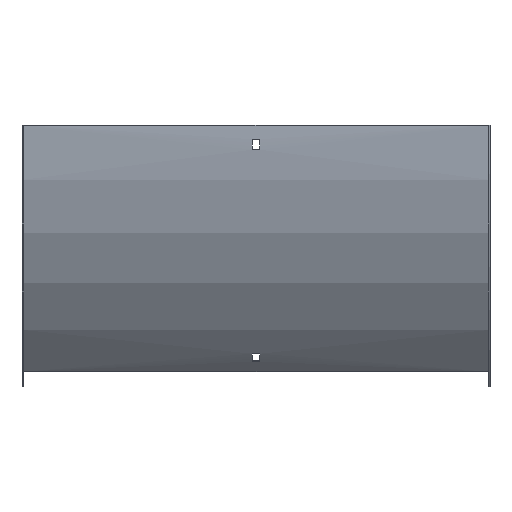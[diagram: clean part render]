
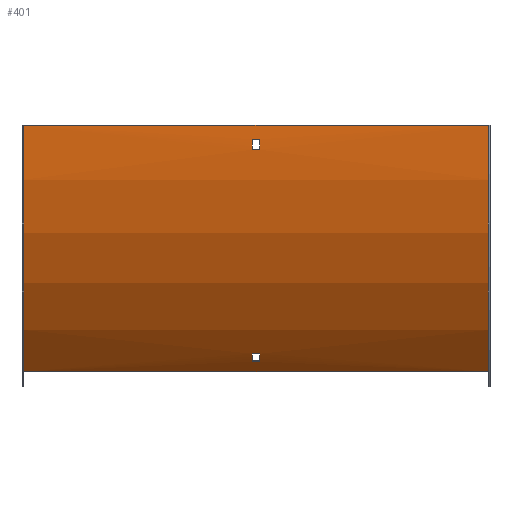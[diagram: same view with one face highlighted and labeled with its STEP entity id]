
A CAD part, front view. The second image highlights one B-rep face of the part: STEP entity #401.
In plain terms, the highlighted cylindrical face has radius 300 mm (diameter 600 mm), a partial arc.
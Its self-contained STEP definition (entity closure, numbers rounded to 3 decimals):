
#7 = AXIS2_PLACEMENT_3D ( 'NONE', #326, #452, #541 ) ;
#9 = ORIENTED_EDGE ( 'NONE', *, *, #300, .F. ) ;
#20 = ORIENTED_EDGE ( 'NONE', *, *, #59, .T. ) ;
#30 = DIRECTION ( 'NONE',  ( -1., 0., 0. ) ) ;
#33 = DIRECTION ( 'NONE',  ( -1., 0., 0. ) ) ;
#37 = AXIS2_PLACEMENT_3D ( 'NONE', #73, #492, #448 ) ;
#40 = CYLINDRICAL_SURFACE ( 'NONE', #575, 300. ) ;
#47 = CARTESIAN_POINT ( 'NONE',  ( -3.25, 72.039, -196.762 ) ) ;
#53 = VERTEX_POINT ( 'NONE', #439 ) ;
#54 = EDGE_CURVE ( 'NONE', #149, #510, #543, .T. ) ;
#59 = EDGE_CURVE ( 'NONE', #446, #149, #234, .T. ) ;
#73 = CARTESIAN_POINT ( 'NONE',  ( -3.25, 298.5, 0. ) ) ;
#77 = VECTOR ( 'NONE', #215, 1000. ) ;
#79 = ORIENTED_EDGE ( 'NONE', *, *, #306, .F. ) ;
#83 = CARTESIAN_POINT ( 'NONE',  ( 200., 86.368, -212.132 ) ) ;
#96 = VERTEX_POINT ( 'NONE', #538 ) ;
#98 = DIRECTION ( 'NONE',  ( 1., 0., 0. ) ) ;
#112 = CARTESIAN_POINT ( 'NONE',  ( 3.25, 298.5, 0. ) ) ;
#117 = VERTEX_POINT ( 'NONE', #47 ) ;
#119 = DIRECTION ( 'NONE',  ( -1., 0., 0. ) ) ;
#120 = CARTESIAN_POINT ( 'NONE',  ( -3.25, 78.052, -203.477 ) ) ;
#136 = DIRECTION ( 'NONE',  ( -1., 0., 0. ) ) ;
#143 = EDGE_CURVE ( 'NONE', #392, #263, #418, .T. ) ;
#145 = ORIENTED_EDGE ( 'NONE', *, *, #342, .F. ) ;
#147 = CARTESIAN_POINT ( 'NONE',  ( 3.25, 298.5, 0. ) ) ;
#149 = VERTEX_POINT ( 'NONE', #505 ) ;
#158 = CARTESIAN_POINT ( 'NONE',  ( -3.25, 298.5, 0. ) ) ;
#160 = DIRECTION ( 'NONE',  ( 1., 0., 0. ) ) ;
#174 = AXIS2_PLACEMENT_3D ( 'NONE', #147, #98, #558 ) ;
#175 = AXIS2_PLACEMENT_3D ( 'NONE', #112, #33, #494 ) ;
#176 = EDGE_CURVE ( 'NONE', #528, #377, #284, .T. ) ;
#187 = ORIENTED_EDGE ( 'NONE', *, *, #363, .T. ) ;
#195 = AXIS2_PLACEMENT_3D ( 'NONE', #158, #350, #429 ) ;
#209 = CIRCLE ( 'NONE', #175, 300. ) ;
#215 = DIRECTION ( 'NONE',  ( -1., 0., 0. ) ) ;
#216 = DIRECTION ( 'NONE',  ( -1., 0., 0. ) ) ;
#224 = VECTOR ( 'NONE', #136, 1000. ) ;
#225 = VECTOR ( 'NONE', #160, 1000. ) ;
#234 = CIRCLE ( 'NONE', #565, 300. ) ;
#245 = VERTEX_POINT ( 'NONE', #299 ) ;
#249 = CARTESIAN_POINT ( 'NONE',  ( 3.25, 78.052, -203.477 ) ) ;
#254 = LINE ( 'NONE', #257, #460 ) ;
#257 = CARTESIAN_POINT ( 'NONE',  ( 201.5, 72.039, -196.762 ) ) ;
#260 = LINE ( 'NONE', #443, #280 ) ;
#263 = VERTEX_POINT ( 'NONE', #249 ) ;
#264 = CARTESIAN_POINT ( 'NONE',  ( 200., 86.368, -212.132 ) ) ;
#269 = CARTESIAN_POINT ( 'NONE',  ( 200., -1.5, 0. ) ) ;
#271 = CARTESIAN_POINT ( 'NONE',  ( 3.25, 72.039, -196.762 ) ) ;
#279 = EDGE_CURVE ( 'NONE', #117, #392, #254, .T. ) ;
#280 = VECTOR ( 'NONE', #216, 1000. ) ;
#284 = LINE ( 'NONE', #475, #224 ) ;
#295 = EDGE_CURVE ( 'NONE', #377, #53, #332, .T. ) ;
#297 = EDGE_CURVE ( 'NONE', #53, #245, #305, .T. ) ;
#299 = CARTESIAN_POINT ( 'NONE',  ( 3.25, -0.764, -21. ) ) ;
#300 = EDGE_CURVE ( 'NONE', #96, #510, #537, .T. ) ;
#303 = CIRCLE ( 'NONE', #37, 300. ) ;
#305 = LINE ( 'NONE', #397, #225 ) ;
#306 = EDGE_CURVE ( 'NONE', #446, #96, #308, .T. ) ;
#308 = LINE ( 'NONE', #264, #333 ) ;
#326 = CARTESIAN_POINT ( 'NONE',  ( -200., 298.5, 0. ) ) ;
#332 = CIRCLE ( 'NONE', #195, 300. ) ;
#333 = VECTOR ( 'NONE', #30, 1000. ) ;
#336 = ORIENTED_EDGE ( 'NONE', *, *, #143, .T. ) ;
#342 = EDGE_CURVE ( 'NONE', #245, #528, #209, .T. ) ;
#349 = VERTEX_POINT ( 'NONE', #120 ) ;
#350 = DIRECTION ( 'NONE',  ( 1., 0., 0. ) ) ;
#355 = CARTESIAN_POINT ( 'NONE',  ( 200., 298.5, 0. ) ) ;
#363 = EDGE_CURVE ( 'NONE', #349, #117, #303, .T. ) ;
#367 = DIRECTION ( 'NONE',  ( -1., 0., 0. ) ) ;
#370 = EDGE_CURVE ( 'NONE', #263, #349, #260, .T. ) ;
#377 = VERTEX_POINT ( 'NONE', #548 ) ;
#387 = ORIENTED_EDGE ( 'NONE', *, *, #370, .T. ) ;
#392 = VERTEX_POINT ( 'NONE', #271 ) ;
#397 = CARTESIAN_POINT ( 'NONE',  ( 201.5, -0.764, -21. ) ) ;
#400 = FACE_OUTER_BOUND ( 'NONE', #424, .T. ) ;
#401 = ADVANCED_FACE ( 'NONE', ( #501, #400, #412 ), #40, .T. ) ;
#408 = CARTESIAN_POINT ( 'NONE',  ( 201.5, 298.5, 0. ) ) ;
#412 = FACE_BOUND ( 'NONE', #518, .T. ) ;
#418 = CIRCLE ( 'NONE', #174, 300. ) ;
#422 = CARTESIAN_POINT ( 'NONE',  ( -200., -1.5, 0. ) ) ;
#424 = EDGE_LOOP ( 'NONE', ( #9, #79, #20, #535 ) ) ;
#429 = DIRECTION ( 'NONE',  ( 0., 0., 1. ) ) ;
#439 = CARTESIAN_POINT ( 'NONE',  ( -3.25, -0.764, -21. ) ) ;
#443 = CARTESIAN_POINT ( 'NONE',  ( 201.5, 78.052, -203.477 ) ) ;
#446 = VERTEX_POINT ( 'NONE', #83 ) ;
#448 = DIRECTION ( 'NONE',  ( 0., 0., -1. ) ) ;
#452 = DIRECTION ( 'NONE',  ( -1., 0., 0. ) ) ;
#460 = VECTOR ( 'NONE', #582, 1000. ) ;
#475 = CARTESIAN_POINT ( 'NONE',  ( 201.5, -1.26, -12. ) ) ;
#482 = EDGE_LOOP ( 'NONE', ( #521, #571, #145, #545 ) ) ;
#492 = DIRECTION ( 'NONE',  ( -1., 0., 0. ) ) ;
#494 = DIRECTION ( 'NONE',  ( 0., 0., -1. ) ) ;
#501 = FACE_BOUND ( 'NONE', #482, .T. ) ;
#505 = CARTESIAN_POINT ( 'NONE',  ( 200., -1.5, 0. ) ) ;
#510 = VERTEX_POINT ( 'NONE', #422 ) ;
#518 = EDGE_LOOP ( 'NONE', ( #387, #187, #572, #336 ) ) ;
#521 = ORIENTED_EDGE ( 'NONE', *, *, #295, .F. ) ;
#528 = VERTEX_POINT ( 'NONE', #557 ) ;
#535 = ORIENTED_EDGE ( 'NONE', *, *, #54, .T. ) ;
#537 = CIRCLE ( 'NONE', #7, 300. ) ;
#538 = CARTESIAN_POINT ( 'NONE',  ( -200., 86.368, -212.132 ) ) ;
#541 = DIRECTION ( 'NONE',  ( 0., 0., 1. ) ) ;
#543 = LINE ( 'NONE', #269, #77 ) ;
#545 = ORIENTED_EDGE ( 'NONE', *, *, #297, .F. ) ;
#548 = CARTESIAN_POINT ( 'NONE',  ( -3.25, -1.26, -12. ) ) ;
#557 = CARTESIAN_POINT ( 'NONE',  ( 3.25, -1.26, -12. ) ) ;
#558 = DIRECTION ( 'NONE',  ( 0., 0., 1. ) ) ;
#565 = AXIS2_PLACEMENT_3D ( 'NONE', #355, #119, #594 ) ;
#571 = ORIENTED_EDGE ( 'NONE', *, *, #176, .F. ) ;
#572 = ORIENTED_EDGE ( 'NONE', *, *, #279, .T. ) ;
#575 = AXIS2_PLACEMENT_3D ( 'NONE', #408, #367, #600 ) ;
#582 = DIRECTION ( 'NONE',  ( 1., 0., 0. ) ) ;
#594 = DIRECTION ( 'NONE',  ( 0., 0., 1. ) ) ;
#600 = DIRECTION ( 'NONE',  ( 0., 0., 1. ) ) ;
